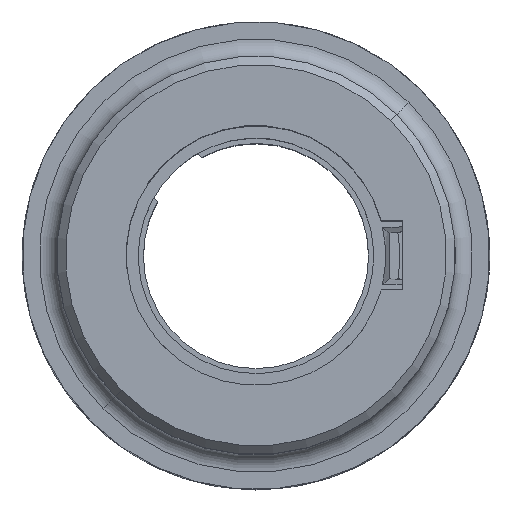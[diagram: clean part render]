
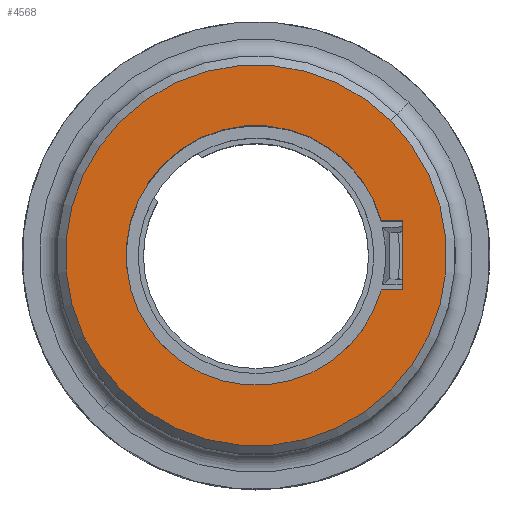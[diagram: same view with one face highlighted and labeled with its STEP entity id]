
A CAD part, top view. The second image highlights one B-rep face of the part: STEP entity #4568.
In plain terms, the highlighted planar face has unit normal (0, 0, 1) as drawn and (0, 0, -1) by its records, which use the part's own axes.
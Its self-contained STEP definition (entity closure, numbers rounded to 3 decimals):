
#57 = EDGE_CURVE ( 'NONE', #5005, #2709, #2376, .T. ) ;
#169 = VERTEX_POINT ( 'NONE', #4732 ) ;
#348 = CARTESIAN_POINT ( 'NONE',  ( 0., 0., -75. ) ) ;
#367 = CARTESIAN_POINT ( 'NONE',  ( 0., 0., -75. ) ) ;
#383 = CIRCLE ( 'NONE', #1943, 37.5 ) ;
#506 = CARTESIAN_POINT ( 'NONE',  ( -32.627, 18.485, -75. ) ) ;
#550 = DIRECTION ( 'NONE',  ( 0., 0., 1. ) ) ;
#688 = VECTOR ( 'NONE', #2669, 1000. ) ;
#795 = DIRECTION ( 'NONE',  ( -0.87, 0.493, 0. ) ) ;
#923 = AXIS2_PLACEMENT_3D ( 'NONE', #348, #2471, #3963 ) ;
#999 = DIRECTION ( 'NONE',  ( -0.87, 0.493, 0. ) ) ;
#1070 = ORIENTED_EDGE ( 'NONE', *, *, #1754, .T. ) ;
#1204 = VECTOR ( 'NONE', #3175, 1000. ) ;
#1268 = CIRCLE ( 'NONE', #3070, 37.5 ) ;
#1328 = EDGE_CURVE ( 'NONE', #4018, #3542, #2280, .T. ) ;
#1470 = DIRECTION ( 'NONE',  ( 0., -1., 0. ) ) ;
#1698 = DIRECTION ( 'NONE',  ( -0.87, 0.493, 0. ) ) ;
#1754 = EDGE_CURVE ( 'NONE', #4997, #4171, #383, .T. ) ;
#1943 = AXIS2_PLACEMENT_3D ( 'NONE', #2682, #550, #795 ) ;
#2070 = DIRECTION ( 'NONE',  ( 0., 0., -1. ) ) ;
#2096 = DIRECTION ( 'NONE',  ( 0.707, 0.707, 0. ) ) ;
#2170 = EDGE_CURVE ( 'NONE', #3265, #3542, #1268, .T. ) ;
#2280 = LINE ( 'NONE', #2776, #688 ) ;
#2344 = LINE ( 'NONE', #4507, #2641 ) ;
#2351 = EDGE_CURVE ( 'NONE', #5005, #2709, #2720, .T. ) ;
#2376 = CIRCLE ( 'NONE', #923, 55. ) ;
#2471 = DIRECTION ( 'NONE',  ( 0., 0., 1. ) ) ;
#2611 = EDGE_CURVE ( 'NONE', #169, #4018, #2344, .T. ) ;
#2641 = VECTOR ( 'NONE', #2096, 1000. ) ;
#2645 = DIRECTION ( 'NONE',  ( 0., 0., -1. ) ) ;
#2653 = AXIS2_PLACEMENT_3D ( 'NONE', #4280, #2645, #1470 ) ;
#2669 = DIRECTION ( 'NONE',  ( 0.707, -0.707, 0. ) ) ;
#2682 = CARTESIAN_POINT ( 'NONE',  ( 0., 0., -75. ) ) ;
#2691 = EDGE_LOOP ( 'NONE', ( #3084, #4366 ) ) ;
#2709 = VERTEX_POINT ( 'NONE', #5276 ) ;
#2720 = CIRCLE ( 'NONE', #6679, 55. ) ;
#2776 = CARTESIAN_POINT ( 'NONE',  ( -22.91, 37.052, -75. ) ) ;
#2994 = DIRECTION ( 'NONE',  ( 0., 0., 1. ) ) ;
#3046 = PLANE ( 'NONE',  #2653 ) ;
#3070 = AXIS2_PLACEMENT_3D ( 'NONE', #367, #2994, #1698 ) ;
#3075 = LINE ( 'NONE', #506, #1204 ) ;
#3082 = FACE_BOUND ( 'NONE', #5035, .T. ) ;
#3084 = ORIENTED_EDGE ( 'NONE', *, *, #2351, .T. ) ;
#3096 = DIRECTION ( 'NONE',  ( 0., 1., 0. ) ) ;
#3107 = CARTESIAN_POINT ( 'NONE',  ( -37.5, 0., -75. ) ) ;
#3175 = DIRECTION ( 'NONE',  ( -0.707, 0.707, 0. ) ) ;
#3185 = FACE_OUTER_BOUND ( 'NONE', #2691, .T. ) ;
#3265 = VERTEX_POINT ( 'NONE', #3412 ) ;
#3412 = CARTESIAN_POINT ( 'NONE',  ( 37.5, 0., -75. ) ) ;
#3542 = VERTEX_POINT ( 'NONE', #3722 ) ;
#3632 = CARTESIAN_POINT ( 'NONE',  ( 0., 55., -75. ) ) ;
#3642 = ORIENTED_EDGE ( 'NONE', *, *, #6144, .T. ) ;
#3668 = CARTESIAN_POINT ( 'NONE',  ( 0., 0., -75. ) ) ;
#3722 = CARTESIAN_POINT ( 'NONE',  ( -18.485, 32.627, -75. ) ) ;
#3963 = DIRECTION ( 'NONE',  ( 0., 1., 0. ) ) ;
#4018 = VERTEX_POINT ( 'NONE', #4390 ) ;
#4104 = CARTESIAN_POINT ( 'NONE',  ( -32.627, 18.485, -75. ) ) ;
#4171 = VERTEX_POINT ( 'NONE', #3107 ) ;
#4280 = CARTESIAN_POINT ( 'NONE',  ( 0., 0., -75. ) ) ;
#4366 = ORIENTED_EDGE ( 'NONE', *, *, #57, .F. ) ;
#4390 = CARTESIAN_POINT ( 'NONE',  ( -22.91, 37.052, -75. ) ) ;
#4507 = CARTESIAN_POINT ( 'NONE',  ( -37.052, 22.91, -75. ) ) ;
#4568 = ADVANCED_FACE ( 'NONE', ( #3082, #3185 ), #3046, .T. ) ;
#4732 = CARTESIAN_POINT ( 'NONE',  ( -37.052, 22.91, -75. ) ) ;
#4746 = ORIENTED_EDGE ( 'NONE', *, *, #2611, .F. ) ;
#4997 = VERTEX_POINT ( 'NONE', #4104 ) ;
#5005 = VERTEX_POINT ( 'NONE', #3632 ) ;
#5035 = EDGE_LOOP ( 'NONE', ( #1070, #3642, #5229, #6234, #4746, #5525 ) ) ;
#5056 = EDGE_CURVE ( 'NONE', #4997, #169, #3075, .T. ) ;
#5229 = ORIENTED_EDGE ( 'NONE', *, *, #2170, .T. ) ;
#5276 = CARTESIAN_POINT ( 'NONE',  ( 0., -55., -75. ) ) ;
#5282 = CARTESIAN_POINT ( 'NONE',  ( 0., 0., -75. ) ) ;
#5362 = AXIS2_PLACEMENT_3D ( 'NONE', #3668, #5827, #999 ) ;
#5525 = ORIENTED_EDGE ( 'NONE', *, *, #5056, .F. ) ;
#5827 = DIRECTION ( 'NONE',  ( 0., 0., 1. ) ) ;
#5923 = CIRCLE ( 'NONE', #5362, 37.5 ) ;
#6144 = EDGE_CURVE ( 'NONE', #4171, #3265, #5923, .T. ) ;
#6234 = ORIENTED_EDGE ( 'NONE', *, *, #1328, .F. ) ;
#6679 = AXIS2_PLACEMENT_3D ( 'NONE', #5282, #2070, #3096 ) ;
